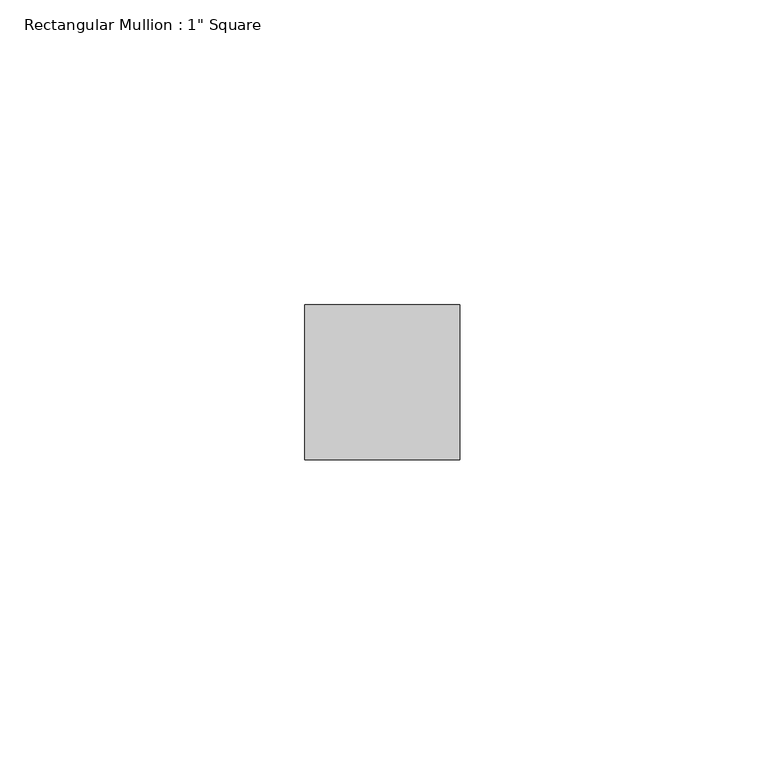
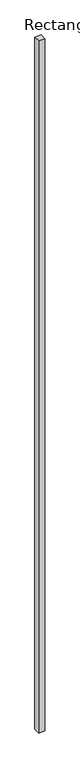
"""IFC4 building model written with IfcOpenShell, lengths in millimetres: member geometry."""

from ifc_helpers import new_model, si_unit, frame, origin, place, context, project, spatial, polyline, outline, extrude, source, transform, mapped, element, save


def member_7154ae9a(model_context):
    return source(origin(), model_context, "Body", "SweptSolid", [
        extrude(outline(polyline([(12.7, 12.7), (12.7, -12.7), (-12.7, -12.7), (-12.7, 12.7), (12.7, 12.7)])), frame((0.0, 0.0, -2911.0370769), z_axis=(0.0, 0.0, 1.0), x_axis=(1.0, 0.0, 0.0)), (0.0, 0.0, 1.0), 2911.0370769),
    ])


if __name__ == "__main__":
    model = new_model("IFC4")
    model_context = context("Model", 3, world=origin())
    ifc_project = project(units=[si_unit("LENGTHUNIT", "METRE", prefix="MILLI")], contexts=[model_context])
    site = spatial("IfcSite", under=ifc_project)
    building = spatial("IfcBuilding", under=site)
    placement = place(None, origin())
    member_shape = member_7154ae9a(model_context)
    element("IfcMember", 1, ObjectType="Rectangular Mullion : 1\" Square", at=placement, inside=building, context=model_context, shape_type="MappedRepresentation", body=[
        mapped(member_shape, transform((0.0, 0.0, 0.0), x_axis=(1.0, 0.0, 0.0), y_axis=(0.0, 1.0, 0.0), z_axis=(0.0, 0.0, 1.0))),
    ])
    save(model, "model.ifc")
